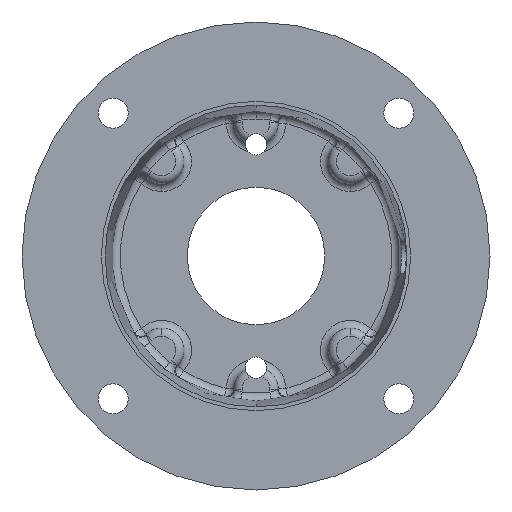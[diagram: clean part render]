
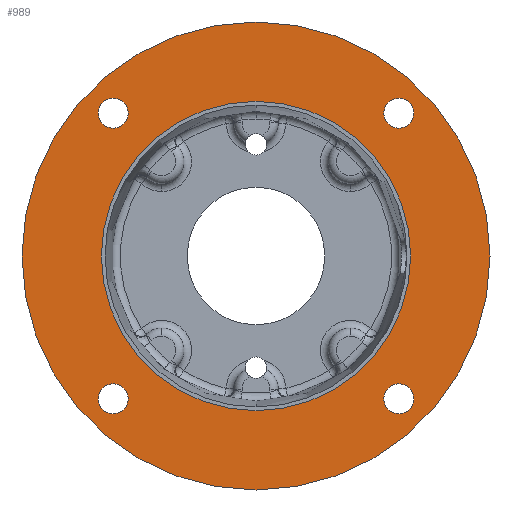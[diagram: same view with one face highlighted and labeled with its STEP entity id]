
A CAD part, front view. The second image highlights one B-rep face of the part: STEP entity #989.
In plain terms, the highlighted planar face has unit normal (0, -1, 0).
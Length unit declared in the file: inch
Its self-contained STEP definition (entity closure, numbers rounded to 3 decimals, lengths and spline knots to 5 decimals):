
#2 = EDGE_CURVE ( 'NONE', #7, #8, #7341, .T. ) ;
#7 = VERTEX_POINT ( 'NONE', #7335 ) ;
#8 = VERTEX_POINT ( 'NONE', #7334 ) ;
#20 = EDGE_CURVE ( 'NONE', #21, #22, #5531, .T. ) ;
#21 = VERTEX_POINT ( 'NONE', #5563 ) ;
#22 = VERTEX_POINT ( 'NONE', #5562 ) ;
#357 = VERTEX_POINT ( 'NONE', #6096 ) ;
#384 = EDGE_CURVE ( 'NONE', #385, #386, #6034, .T. ) ;
#385 = VERTEX_POINT ( 'NONE', #6029 ) ;
#386 = VERTEX_POINT ( 'NONE', #6028 ) ;
#394 = EDGE_CURVE ( 'NONE', #357, #395, #6501, .T. ) ;
#395 = VERTEX_POINT ( 'NONE', #6496 ) ;
#406 = EDGE_CURVE ( 'NONE', #407, #408, #6469, .T. ) ;
#407 = VERTEX_POINT ( 'NONE', #6464 ) ;
#408 = VERTEX_POINT ( 'NONE', #6463 ) ;
#858 = VERTEX_POINT ( 'NONE', #3434 ) ;
#860 = EDGE_CURVE ( 'NONE', #861, #858, #3433, .T. ) ;
#861 = VERTEX_POINT ( 'NONE', #3629 ) ;
#888 = ORIENTED_EDGE ( 'NONE', *, *, #889, .T. ) ;
#889 = EDGE_CURVE ( 'NONE', #408, #407, #3526, .T. ) ;
#890 = ORIENTED_EDGE ( 'NONE', *, *, #406, .T. ) ;
#891 = EDGE_LOOP ( 'NONE', ( #892, #893 ) ) ;
#892 = ORIENTED_EDGE ( 'NONE', *, *, #860, .T. ) ;
#893 = ORIENTED_EDGE ( 'NONE', *, *, #1048, .T. ) ;
#937 = ORIENTED_EDGE ( 'NONE', *, *, #938, .T. ) ;
#938 = EDGE_CURVE ( 'NONE', #22, #21, #3838, .T. ) ;
#939 = ORIENTED_EDGE ( 'NONE', *, *, #20, .T. ) ;
#940 = EDGE_LOOP ( 'NONE', ( #888, #890 ) ) ;
#963 = ORIENTED_EDGE ( 'NONE', *, *, #964, .F. ) ;
#964 = EDGE_CURVE ( 'NONE', #395, #357, #3780, .T. ) ;
#965 = ORIENTED_EDGE ( 'NONE', *, *, #394, .F. ) ;
#966 = EDGE_LOOP ( 'NONE', ( #967, #969 ) ) ;
#967 = ORIENTED_EDGE ( 'NONE', *, *, #968, .T. ) ;
#968 = EDGE_CURVE ( 'NONE', #386, #385, #3775, .T. ) ;
#969 = ORIENTED_EDGE ( 'NONE', *, *, #384, .T. ) ;
#970 = EDGE_LOOP ( 'NONE', ( #971, #973 ) ) ;
#971 = ORIENTED_EDGE ( 'NONE', *, *, #972, .T. ) ;
#972 = EDGE_CURVE ( 'NONE', #8, #7, #3770, .T. ) ;
#973 = ORIENTED_EDGE ( 'NONE', *, *, #2, .T. ) ;
#974 = EDGE_LOOP ( 'NONE', ( #937, #939 ) ) ;
#989 = ADVANCED_FACE ( 'NONE', ( #3739, #3738, #3737, #3736, #3735, #3734 ), #3733, .F. ) ;
#990 = EDGE_LOOP ( 'NONE', ( #963, #965 ) ) ;
#1048 = EDGE_CURVE ( 'NONE', #858, #861, #3895, .T. ) ;
#3433 = CIRCLE ( 'NONE', #3633, 3.405 ) ;
#3434 = CARTESIAN_POINT ( 'NONE',  ( 0., 0., 3.405 ) ) ;
#3523 = DIRECTION ( 'NONE',  ( 0., 0., 1. ) ) ;
#3524 = DIRECTION ( 'NONE',  ( 0., 1., 0. ) ) ;
#3525 = AXIS2_PLACEMENT_3D ( 'NONE', #3532, #3524, #3523 ) ;
#3526 = CIRCLE ( 'NONE', #3525, 0.21875 ) ;
#3532 = CARTESIAN_POINT ( 'NONE',  ( 2.07889, 0., 2.07889 ) ) ;
#3629 = CARTESIAN_POINT ( 'NONE',  ( 0., 0., -3.405 ) ) ;
#3630 = DIRECTION ( 'NONE',  ( 0., 0., -1. ) ) ;
#3631 = DIRECTION ( 'NONE',  ( 0., -1., 0. ) ) ;
#3632 = CARTESIAN_POINT ( 'NONE',  ( 0., 0., 0. ) ) ;
#3633 = AXIS2_PLACEMENT_3D ( 'NONE', #3632, #3631, #3630 ) ;
#3728 = DIRECTION ( 'NONE',  ( 0., 0., 1. ) ) ;
#3729 = DIRECTION ( 'NONE',  ( 0., 1., 0. ) ) ;
#3730 = AXIS2_PLACEMENT_3D ( 'NONE', #3732, #3729, #3728 ) ;
#3732 = CARTESIAN_POINT ( 'NONE',  ( -2.20315, 0., 0. ) ) ;
#3733 = PLANE ( 'NONE',  #3730 ) ;
#3734 = FACE_OUTER_BOUND ( 'NONE', #891, .T. ) ;
#3735 = FACE_BOUND ( 'NONE', #940, .T. ) ;
#3736 = FACE_BOUND ( 'NONE', #974, .T. ) ;
#3737 = FACE_BOUND ( 'NONE', #970, .T. ) ;
#3738 = FACE_BOUND ( 'NONE', #966, .T. ) ;
#3739 = FACE_BOUND ( 'NONE', #990, .T. ) ;
#3766 = DIRECTION ( 'NONE',  ( 0., 0., 1. ) ) ;
#3767 = DIRECTION ( 'NONE',  ( 0., 1., 0. ) ) ;
#3768 = CARTESIAN_POINT ( 'NONE',  ( -2.07889, 0., -2.07889 ) ) ;
#3769 = AXIS2_PLACEMENT_3D ( 'NONE', #3768, #3767, #3766 ) ;
#3770 = CIRCLE ( 'NONE', #3769, 0.21875 ) ;
#3771 = DIRECTION ( 'NONE',  ( 0., 0., 1. ) ) ;
#3772 = DIRECTION ( 'NONE',  ( 0., 1., 0. ) ) ;
#3773 = CARTESIAN_POINT ( 'NONE',  ( 2.07889, 0., -2.07889 ) ) ;
#3774 = AXIS2_PLACEMENT_3D ( 'NONE', #3773, #3772, #3771 ) ;
#3775 = CIRCLE ( 'NONE', #3774, 0.21875 ) ;
#3776 = DIRECTION ( 'NONE',  ( 0., 0., -1. ) ) ;
#3777 = DIRECTION ( 'NONE',  ( 0., -1., 0. ) ) ;
#3778 = CARTESIAN_POINT ( 'NONE',  ( 0., 0., 0. ) ) ;
#3779 = AXIS2_PLACEMENT_3D ( 'NONE', #3778, #3777, #3776 ) ;
#3780 = CIRCLE ( 'NONE', #3779, 2.2505 ) ;
#3834 = DIRECTION ( 'NONE',  ( 0., 0., 1. ) ) ;
#3835 = DIRECTION ( 'NONE',  ( 0., 1., 0. ) ) ;
#3836 = CARTESIAN_POINT ( 'NONE',  ( -2.07889, 0., 2.07889 ) ) ;
#3837 = AXIS2_PLACEMENT_3D ( 'NONE', #3836, #3835, #3834 ) ;
#3838 = CIRCLE ( 'NONE', #3837, 0.21875 ) ;
#3891 = DIRECTION ( 'NONE',  ( 0., 0., -1. ) ) ;
#3892 = DIRECTION ( 'NONE',  ( 0., -1., 0. ) ) ;
#3893 = CARTESIAN_POINT ( 'NONE',  ( 0., 0., 0. ) ) ;
#3894 = AXIS2_PLACEMENT_3D ( 'NONE', #3893, #3892, #3891 ) ;
#3895 = CIRCLE ( 'NONE', #3894, 3.405 ) ;
#5442 = CARTESIAN_POINT ( 'NONE',  ( -2.07889, 0., 2.07889 ) ) ;
#5443 = DIRECTION ( 'NONE',  ( 0., 1., 0. ) ) ;
#5444 = AXIS2_PLACEMENT_3D ( 'NONE', #5442, #5443, #5525 ) ;
#5525 = DIRECTION ( 'NONE',  ( 0., 0., 1. ) ) ;
#5531 = CIRCLE ( 'NONE', #5444, 0.21875 ) ;
#5562 = CARTESIAN_POINT ( 'NONE',  ( -2.07889, 0., 2.29764 ) ) ;
#5563 = CARTESIAN_POINT ( 'NONE',  ( -2.07889, 0., 1.86014 ) ) ;
#6028 = CARTESIAN_POINT ( 'NONE',  ( 2.07889, 0., -1.86014 ) ) ;
#6029 = CARTESIAN_POINT ( 'NONE',  ( 2.07889, 0., -2.29764 ) ) ;
#6030 = DIRECTION ( 'NONE',  ( 0., 0., 1. ) ) ;
#6031 = DIRECTION ( 'NONE',  ( 0., 1., 0. ) ) ;
#6032 = CARTESIAN_POINT ( 'NONE',  ( 2.07889, 0., -2.07889 ) ) ;
#6033 = AXIS2_PLACEMENT_3D ( 'NONE', #6032, #6031, #6030 ) ;
#6034 = CIRCLE ( 'NONE', #6033, 0.21875 ) ;
#6096 = CARTESIAN_POINT ( 'NONE',  ( 0., 0., 2.2505 ) ) ;
#6463 = CARTESIAN_POINT ( 'NONE',  ( 2.07889, 0., 2.29764 ) ) ;
#6464 = CARTESIAN_POINT ( 'NONE',  ( 2.07889, 0., 1.86014 ) ) ;
#6465 = DIRECTION ( 'NONE',  ( 0., 0., 1. ) ) ;
#6466 = DIRECTION ( 'NONE',  ( 0., 1., 0. ) ) ;
#6467 = CARTESIAN_POINT ( 'NONE',  ( 2.07889, 0., 2.07889 ) ) ;
#6468 = AXIS2_PLACEMENT_3D ( 'NONE', #6467, #6466, #6465 ) ;
#6469 = CIRCLE ( 'NONE', #6468, 0.21875 ) ;
#6496 = CARTESIAN_POINT ( 'NONE',  ( 0., 0., -2.2505 ) ) ;
#6497 = DIRECTION ( 'NONE',  ( 0., 0., -1. ) ) ;
#6498 = DIRECTION ( 'NONE',  ( 0., -1., 0. ) ) ;
#6499 = CARTESIAN_POINT ( 'NONE',  ( 0., 0., 0. ) ) ;
#6500 = AXIS2_PLACEMENT_3D ( 'NONE', #6499, #6498, #6497 ) ;
#6501 = CIRCLE ( 'NONE', #6500, 2.2505 ) ;
#7334 = CARTESIAN_POINT ( 'NONE',  ( -2.07889, 0., -1.86014 ) ) ;
#7335 = CARTESIAN_POINT ( 'NONE',  ( -2.07889, 0., -2.29764 ) ) ;
#7337 = DIRECTION ( 'NONE',  ( 0., 0., 1. ) ) ;
#7338 = DIRECTION ( 'NONE',  ( 0., 1., 0. ) ) ;
#7339 = CARTESIAN_POINT ( 'NONE',  ( -2.07889, 0., -2.07889 ) ) ;
#7340 = AXIS2_PLACEMENT_3D ( 'NONE', #7339, #7338, #7337 ) ;
#7341 = CIRCLE ( 'NONE', #7340, 0.21875 ) ;
